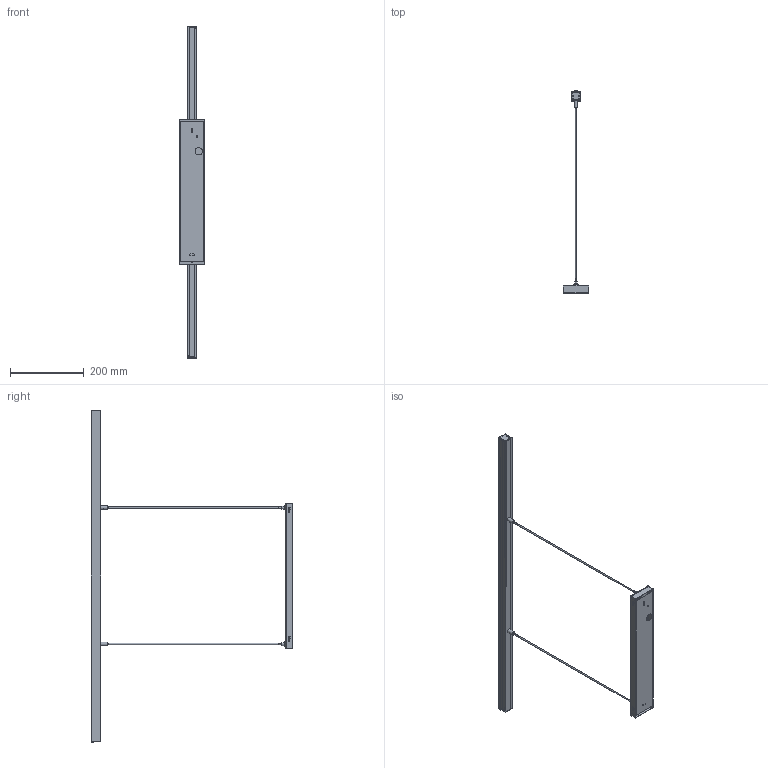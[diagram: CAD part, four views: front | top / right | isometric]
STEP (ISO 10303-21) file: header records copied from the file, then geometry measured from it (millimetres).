
FILE_DESCRIPTION (( 'STEP AP214' ), '1' );
FILE_NAME ('2000786 Pendelleichte ICE Emotion.STEP', '2022-11-03T09:34:09', ( '' ), ( '' ), 'SwSTEP 2.0', 'SolidWorks 2021', '' );
FILE_SCHEMA (( 'AUTOMOTIVE_DESIGN' ));
Length unit declared in the file: millimetre
Products named in the file (9): Ice_Profil_1700714_715_716; Seil; Seilhalter chrom für Haltevorrichtung für die Höhenjustierung, Gewinde = M10, Chrom; Abdeckung Pendelleuchte ICE Emotion_896; Seilhalter f. Pendelleuchte; 2000786 Pendelleichte ICE Emotion; Konverteraufnahme; 1432596-1432595_Endkappe Ice Profil; Konverterverkleidung
Assembly tree (12 placements, depth 2):
  2000786 Pendelleichte ICE Emotion
    Konverterverkleidung
    Konverteraufnahme
    Ice_Profil_1700714_715_716
    Abdeckung Pendelleuchte ICE Emotion_896
    1432596-1432595_Endkappe Ice Profil  x2
    Seilhalter f. Pendelleuchte  x2
    Seilhalter chrom für Haltevorrichtung für die Höhenjustierung, Gewinde = M10, Chrom  x2
    Seil  x2
Bounding box: 68.6 x 546.51 x 900 mm (x, y, z)
Volume: 229736.5 mm3; surface area: 403950.3 mm2
Topology: 12 solids, 12 shells, 691 faces, 1745 edges, 1056 vertices
Faces by surface type: cylinder 329, plane 258, torus 60, bspline 36, sphere 4, cone 4
Entity records: 16141 total; most frequent: CARTESIAN_POINT 4109, DIRECTION 2542, ORIENTED_EDGE 2372, EDGE_CURVE 1186, AXIS2_PLACEMENT_3D 939, VERTEX_POINT 743, VECTOR 664, LINE 664
